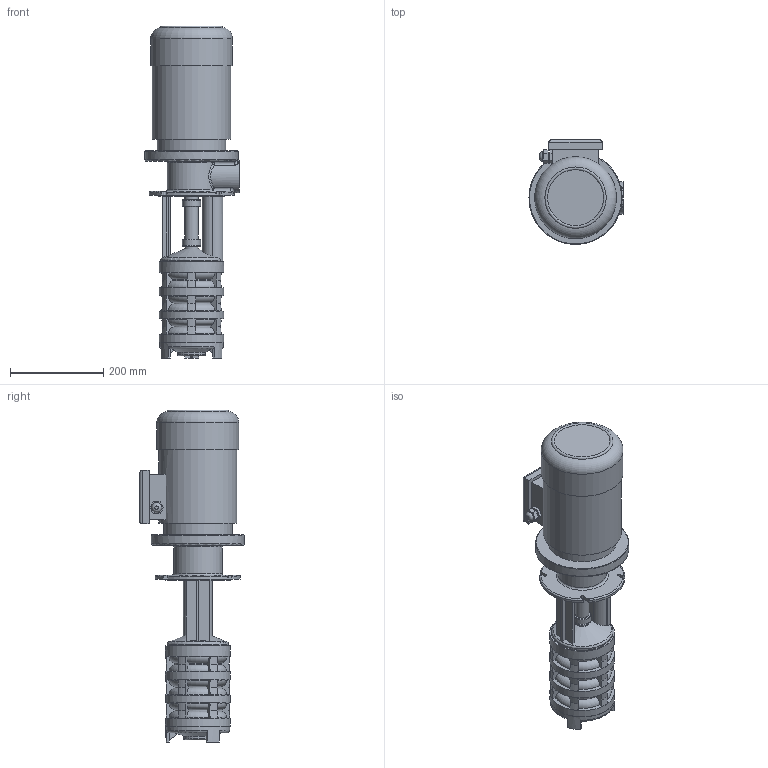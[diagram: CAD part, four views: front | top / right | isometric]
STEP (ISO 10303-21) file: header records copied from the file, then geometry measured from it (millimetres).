
FILE_DESCRIPTION(/* description */ ('Unknown'),/* implementation_level */ '2;1');
FILE_NAME(/* name */ 'gp4-350',/* time_stamp */ '2025-06-12T11:01:46+03:00',/* author */ ('Unknown'),/* organization */ ('Unknown'),/* preprocessor_version */ 'ST-DEVELOPER v16.7',/* originating_system */ 'DEX',/* authorisation */ $);
FILE_SCHEMA (('AUTOMOTIVE_DESIGN {1 0 10303 214 3 1 1}'));
Length unit declared in the file: millimetre
Products named in the file (1): gp4-350
Bounding box: 202 x 225 x 713.33 mm (x, y, z)
Volume: 11299836.2 mm3; surface area: 521380.9 mm2
Topology: 1 solids, 1 shells, 430 faces, 1128 edges, 731 vertices
Faces by surface type: plane 146, cylinder 86, bspline 84, cone 61, torus 53
Full cylindrical faces by diameter (mm): 17 x1, 21.5 x1, 29 x3, 33 x2, 35 x2, 39 x2, 40.5 x2, 45 x1, 47 x1, 60 x1, 137 x1, 139 x4, 140 x1, 168.001 x1, 176 x1, 200 x1
Entity records: 15841 total; most frequent: CARTESIAN_POINT 5836, ORIENTED_EDGE 2120, DIRECTION 1931, EDGE_CURVE 1060, AXIS2_PLACEMENT_3D 731, VERTEX_POINT 718, EDGE_LOOP 520, FACE_BOUND 520
